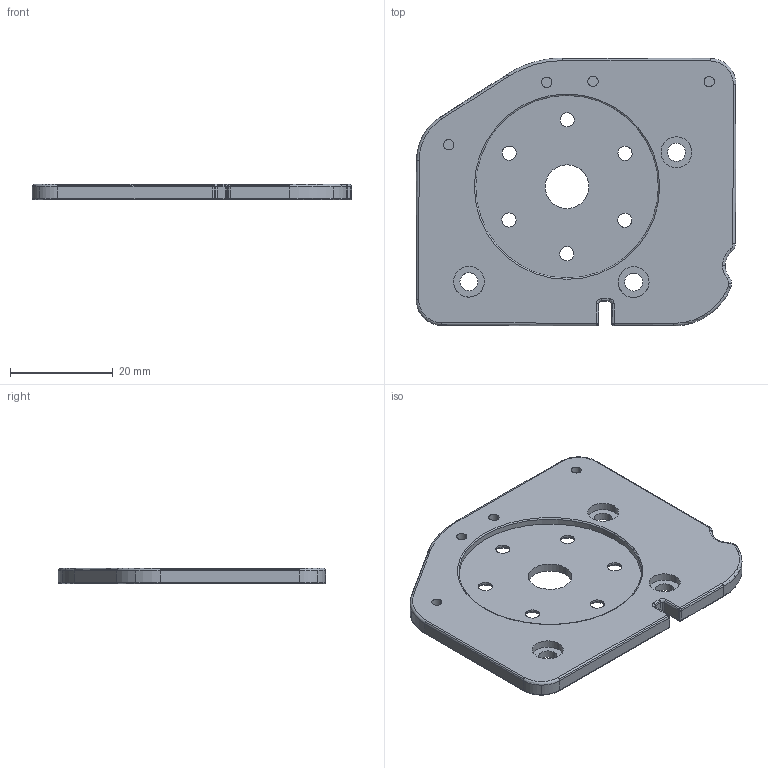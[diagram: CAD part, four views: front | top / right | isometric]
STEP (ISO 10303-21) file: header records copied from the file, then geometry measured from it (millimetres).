
FILE_DESCRIPTION(('STEP AP214'),'1');
FILE_NAME('Conception6.stp','2020-09-10T08:50:54',(' '),(' '),'Spatial InterOp 3D',' ',' ');
FILE_SCHEMA(('AUTOMOTIVE_DESIGN { 1 0 10303 214 1 1 1 1 }'));
Length unit declared in the file: metre
Products named in the file (1): Corps1
Bounding box: 62.12 x 52.06 x 3.01 mm (x, y, z)
Volume: 7158.2 mm3; surface area: 6810.4 mm2
Topology: 1 solids, 1 shells, 175 faces, 452 edges, 283 vertices
Faces by surface type: cylinder 108, torus 32, plane 19, cone 12, sphere 4
Entity records: 5492 total; most frequent: DIRECTION 1101, CARTESIAN_POINT 907, ORIENTED_EDGE 896, AXIS2_PLACEMENT_3D 477, EDGE_CURVE 448, CIRCLE 301, VERTEX_POINT 283, EDGE_LOOP 203
